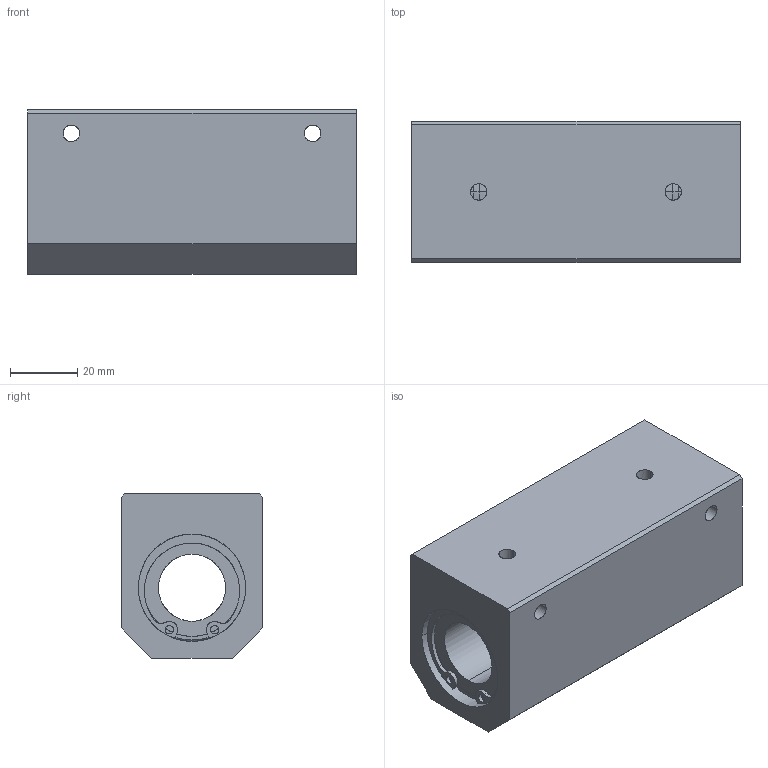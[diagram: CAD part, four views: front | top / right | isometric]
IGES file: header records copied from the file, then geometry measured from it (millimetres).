
Global section: file name: No Iges File Name specified; native system: AutoDesk Inventor R10; preprocessor: AutoDesk Inventor Iges Exporter R10; author: No Author specified; organization: No Organization specified; date: 20101216.152431; units: millimetre
Bounding box: 98 x 42 x 49 mm (x, y, z)
Surface area: 29886 mm2 (no closed solid volume)
Topology: 0 solids, 0 shells, 108 faces, 820 edges, 820 vertices
Faces by surface type: bspline 108
